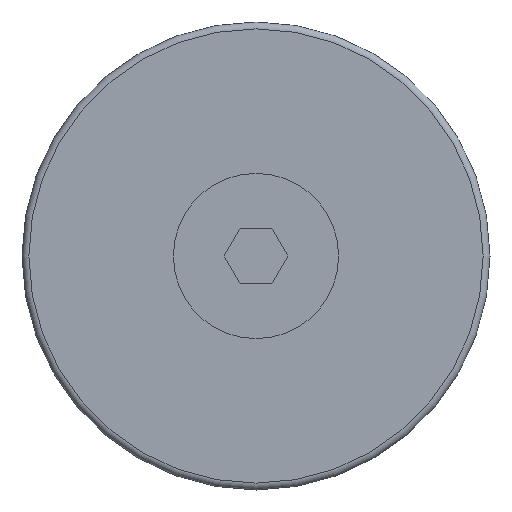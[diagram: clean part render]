
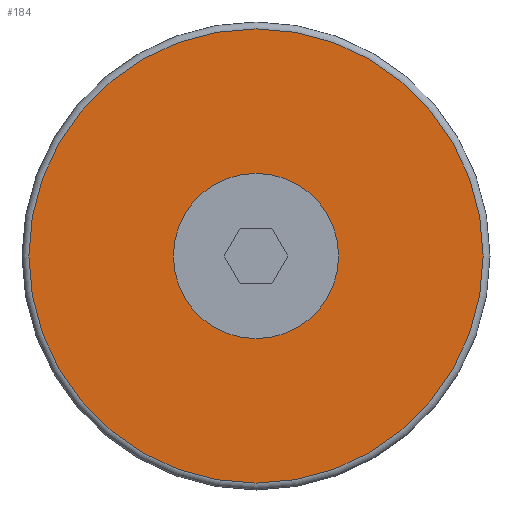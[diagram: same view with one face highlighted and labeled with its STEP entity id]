
A CAD part, front view. The second image highlights one B-rep face of the part: STEP entity #184.
In plain terms, the highlighted planar face has unit normal (0, -1, 0).
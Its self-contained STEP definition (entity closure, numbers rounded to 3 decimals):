
#184=ADVANCED_FACE('',(#261,#262),#263,.F.);
#261=FACE_BOUND('',#385,.T.);
#262=FACE_OUTER_BOUND('',#386,.T.);
#263=PLANE('',#387);
#385=EDGE_LOOP('',(#553));
#386=EDGE_LOOP('',(#554));
#387=AXIS2_PLACEMENT_3D('',#555,#556,#557);
#553=ORIENTED_EDGE('',*,*,#851,.F.);
#554=ORIENTED_EDGE('',*,*,#850,.T.);
#555=CARTESIAN_POINT('',(-16.5,-20.5,0.0));
#556=DIRECTION('',(0.0,1.0,0.0));
#557=DIRECTION('',(0.0,0.0,1.0));
#850=EDGE_CURVE('',#974,#974,#975,.T.);
#851=EDGE_CURVE('',#976,#976,#977,.T.);
#974=VERTEX_POINT('',#1156);
#975=CIRCLE('',#1157,16.5);
#976=VERTEX_POINT('',#1158);
#977=CIRCLE('',#1159,6.0);
#1156=CARTESIAN_POINT('',(0.0,-20.5,-16.5));
#1157=AXIS2_PLACEMENT_3D('',#1468,#1469,#1470);
#1158=CARTESIAN_POINT('',(0.0,-20.5,-6.0));
#1159=AXIS2_PLACEMENT_3D('',#1471,#1472,#1473);
#1468=CARTESIAN_POINT('',(0.0,-20.5,0.0));
#1469=DIRECTION('',(0.0,-1.0,0.0));
#1470=DIRECTION('',(0.0,0.0,-1.0));
#1471=CARTESIAN_POINT('',(0.0,-20.5,0.0));
#1472=DIRECTION('',(0.0,-1.0,0.0));
#1473=DIRECTION('',(0.0,0.0,-1.0));
